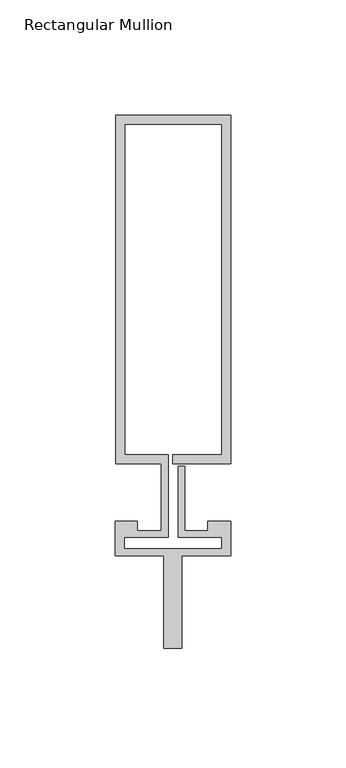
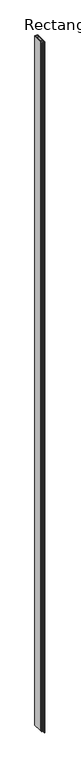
"""IFC4 building model written with IfcOpenShell, lengths in millimetres: member geometry, Rectangular Mullion : Reynaers_CW-50_Mullion-Transom_Horizontal_151.4mm_Facecap-06B."""

from ifc_helpers import new_model, si_unit, frame, origin, place, context, project, spatial, polyline, outline, extrude, source, transform, mapped, element, save


def rectangular_mullion_1d7d6753(model_context):
    return source(origin(), model_context, "Body", "SweptSolid", [
        extrude(outline(polyline([(-24.8004059, 163.9), (25.1995941, 163.9), (25.1995941, 12.5), (0.0, 12.5), (0.0, 16.5), (21.1995941, 16.5), (21.1995941, 159.9), (-20.8004059, 159.9), (-20.8004059, 16.5), (-1.9004059, 16.5), (-1.9004059, -19.5), (-20.994845, -19.5), (-20.994845, -24.4191338), (21.1995941, -24.4191338), (21.1995941, -19.5), (2.2995941, -19.5), (2.2995941, 11.5), (5.2995941, 11.5), (5.2995941, -16.5), (15.2996495, -16.5), (15.2996495, -12.5), (25.1995941, -12.5), (25.1995941, -27.5), (4.004855, -27.5), (4.004855, -67.5), (-3.995145, -67.5), (-3.995145, -27.5), (-24.994845, -27.5), (-24.994845, -12.5), (-15.2996495, -12.5), (-15.2996495, -16.5), (-4.9004059, -16.5), (-4.9004059, 12.5), (-24.8004059, 12.5), (-24.8004059, 163.9)])), frame((0.0, 0.0, -12000.0), z_axis=(0.0, 0.0, 1.0), x_axis=(1.0, 0.0, 0.0)), (0.0, 0.0, 1.0), 12000.0),
    ])


if __name__ == "__main__":
    model = new_model("IFC4")
    model_context = context("Model", 3, world=origin())
    ifc_project = project(units=[si_unit("LENGTHUNIT", "METRE", prefix="MILLI")], contexts=[model_context])
    site = spatial("IfcSite", under=ifc_project)
    building = spatial("IfcBuilding", under=site)
    placement = place(None, origin())
    rectangular_mullion_shape = rectangular_mullion_1d7d6753(model_context)
    element("IfcMember", 1, ObjectType="Rectangular Mullion : Reynaers_CW-50_Mullion-Transom_Horizontal_151.4mm_Facecap-06B", at=placement, inside=building, context=model_context, shape_type="MappedRepresentation", body=[
        mapped(rectangular_mullion_shape, transform((0.0, 0.0, 0.0), x_axis=(1.0, 0.0, 0.0), y_axis=(0.0, 1.0, 0.0), z_axis=(0.0, 0.0, 1.0))),
    ])
    save(model, "model.ifc")
